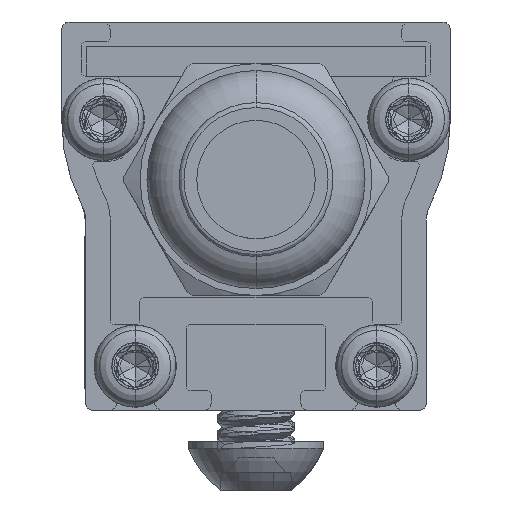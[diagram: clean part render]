
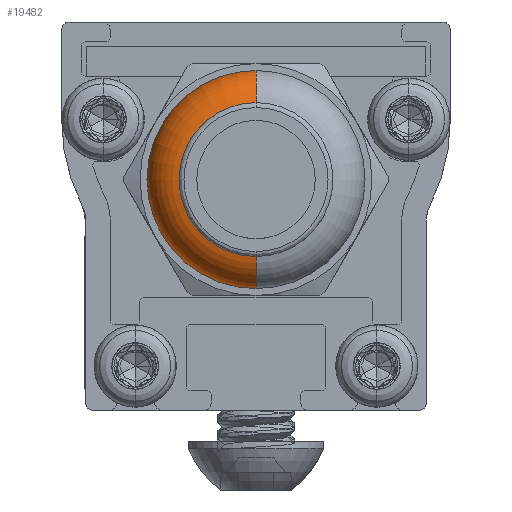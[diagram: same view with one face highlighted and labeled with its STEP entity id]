
A CAD part, left-side view. The second image highlights one B-rep face of the part: STEP entity #19482.
In plain terms, the highlighted toroidal (fillet/blend) face has major radius 3.518 mm and minor radius 2.095 mm.
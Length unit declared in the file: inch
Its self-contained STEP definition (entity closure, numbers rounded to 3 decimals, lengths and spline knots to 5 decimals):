
#399 = ORIENTED_EDGE ( 'NONE', *, *, #12062, .T. ) ;
#632 = AXIS2_PLACEMENT_3D ( 'NONE', #22380, #22484, #17883 ) ;
#768 = VERTEX_POINT ( 'NONE', #8275 ) ;
#1019 = AXIS2_PLACEMENT_3D ( 'NONE', #2043, #4760, #21400 ) ;
#1833 = FACE_OUTER_BOUND ( 'NONE', #26318, .T. ) ;
#2043 = CARTESIAN_POINT ( 'NONE',  ( -0.31437, 0., 0.13852 ) ) ;
#3213 = CARTESIAN_POINT ( 'NONE',  ( -0.31437, 0., -0.13852 ) ) ;
#4445 = DIRECTION ( 'NONE',  ( -1., 0., 0. ) ) ;
#4760 = DIRECTION ( 'NONE',  ( 0., -1., 0. ) ) ;
#4944 = CARTESIAN_POINT ( 'NONE',  ( -0.31437, 0., 0. ) ) ;
#5100 = EDGE_CURVE ( 'NONE', #768, #29131, #23835, .T. ) ;
#7332 = CIRCLE ( 'NONE', #20780, 0.156 ) ;
#7980 = DIRECTION ( 'NONE',  ( 0., 0., 1. ) ) ;
#8275 = CARTESIAN_POINT ( 'NONE',  ( -0.31437, 0., -0.22102 ) ) ;
#9247 = CARTESIAN_POINT ( 'NONE',  ( -0.395, 0., -0.156 ) ) ;
#9817 = VERTEX_POINT ( 'NONE', #12497 ) ;
#11272 = EDGE_CURVE ( 'NONE', #9817, #21715, #7332, .T. ) ;
#12062 = EDGE_CURVE ( 'NONE', #768, #21715, #30766, .T. ) ;
#12234 = ORIENTED_EDGE ( 'NONE', *, *, #29501, .F. ) ;
#12497 = CARTESIAN_POINT ( 'NONE',  ( -0.395, 0., 0.156 ) ) ;
#15152 = ORIENTED_EDGE ( 'NONE', *, *, #5100, .F. ) ;
#17883 = DIRECTION ( 'NONE',  ( 0., 0., 1. ) ) ;
#18480 = AXIS2_PLACEMENT_3D ( 'NONE', #4944, #18986, #26289 ) ;
#18523 = CARTESIAN_POINT ( 'NONE',  ( -0.395, 0., 0. ) ) ;
#18986 = DIRECTION ( 'NONE',  ( 1., 0., 0. ) ) ;
#19482 = ADVANCED_FACE ( 'NONE', ( #1833 ), #20098, .T. ) ;
#20098 = TOROIDAL_SURFACE ( 'NONE', #632, 0.13852, 0.0825 ) ;
#20193 = AXIS2_PLACEMENT_3D ( 'NONE', #3213, #29263, #7980 ) ;
#20780 = AXIS2_PLACEMENT_3D ( 'NONE', #18523, #4445, #27983 ) ;
#21400 = DIRECTION ( 'NONE',  ( 0., 0., -1. ) ) ;
#21715 = VERTEX_POINT ( 'NONE', #9247 ) ;
#22380 = CARTESIAN_POINT ( 'NONE',  ( -0.31437, 0., 0. ) ) ;
#22484 = DIRECTION ( 'NONE',  ( -1., 0., 0. ) ) ;
#23519 = CIRCLE ( 'NONE', #1019, 0.0825 ) ;
#23835 = CIRCLE ( 'NONE', #18480, 0.22102 ) ;
#24265 = CARTESIAN_POINT ( 'NONE',  ( -0.31437, 0., 0.22102 ) ) ;
#26289 = DIRECTION ( 'NONE',  ( 0., 0., 1. ) ) ;
#26318 = EDGE_LOOP ( 'NONE', ( #15152, #399, #28487, #12234 ) ) ;
#27983 = DIRECTION ( 'NONE',  ( 0., 0., 1. ) ) ;
#28487 = ORIENTED_EDGE ( 'NONE', *, *, #11272, .F. ) ;
#29131 = VERTEX_POINT ( 'NONE', #24265 ) ;
#29263 = DIRECTION ( 'NONE',  ( 0., 1., 0. ) ) ;
#29501 = EDGE_CURVE ( 'NONE', #29131, #9817, #23519, .T. ) ;
#30766 = CIRCLE ( 'NONE', #20193, 0.0825 ) ;
